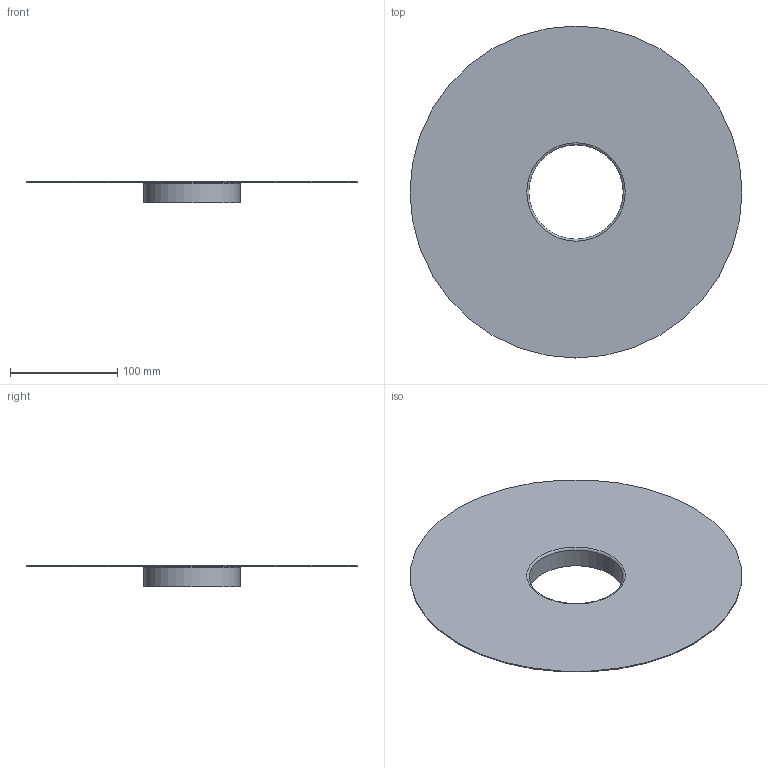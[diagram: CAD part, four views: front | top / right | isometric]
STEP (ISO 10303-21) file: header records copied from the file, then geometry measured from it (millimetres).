
FILE_DESCRIPTION(/* description */ (''),/* implementation_level */ '2;1');
FILE_NAME(/* name */ '388137.stp',/* time_stamp */ '2026-03-25T11:23:59+01:00',/* author */ ('JANAN'),/* organization */ (''),/* preprocessor_version */ 'ST-DEVELOPER v20.1',/* originating_system */ 'Autodesk Inventor 2026',/* authorisation */ '');
FILE_SCHEMA (('AUTOMOTIVE_DESIGN { 1 0 10303 214 3 1 1 }'));
Length unit declared in the file: millimetre
Products named in the file (1): Anschlussflansch, BA steckbar
Bounding box: 310 x 310 x 20 mm (x, y, z)
Volume: 74528.3 mm3; surface area: 150308.1 mm2
Topology: 1 solids, 1 shells, 8 faces, 13 edges, 8 vertices
Faces by surface type: cylinder 3, plane 3, torus 2
Full cylindrical faces by diameter (mm): 88 x1, 90 x1, 310 x1
Entity records: 246 total; most frequent: DIRECTION 41, CARTESIAN_POINT 30, ORIENTED_EDGE 26, AXIS2_PLACEMENT_3D 19, EDGE_CURVE 13, EDGE_LOOP 11, CIRCLE 10, STYLED_ITEM 9
